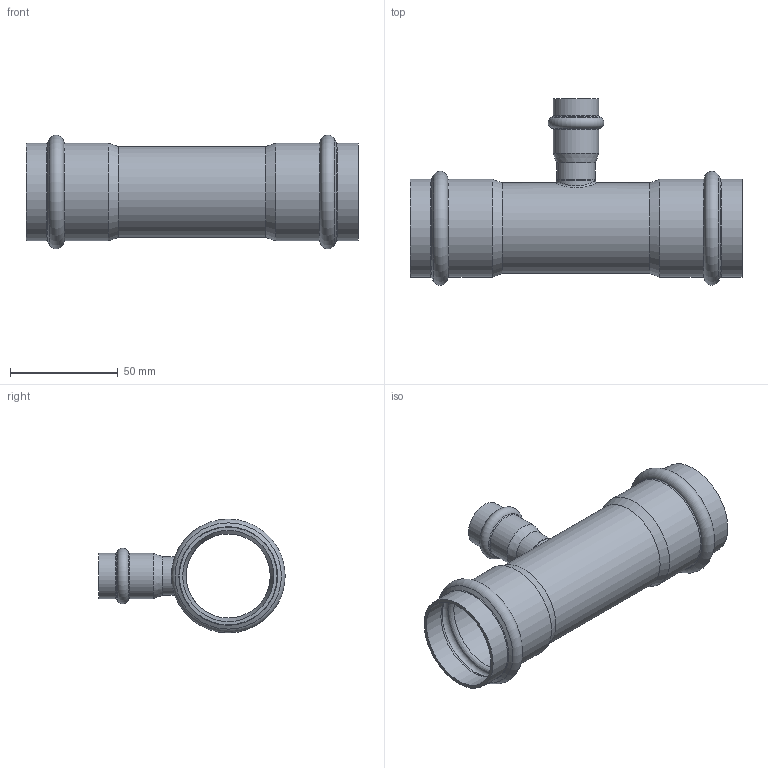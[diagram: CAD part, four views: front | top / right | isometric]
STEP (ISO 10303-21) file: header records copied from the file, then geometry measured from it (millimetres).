
FILE_DESCRIPTION((''),'2;1');
FILE_NAME('G:\Technics\CAD\Bauteile\042\69130421842(2).stp','2008-03-04T11:18:43',('herberg'),(''),'Autodesk Inventor 2008','Autodesk Inventor 2008','');
FILE_SCHEMA(('AUTOMOTIVE_DESIGN { 1 0 10303 214 1 1 1 1 }'));
Length unit declared in the file: millimetre
Products named in the file (3): 69130421842(2); LM_69130421842(2); 6924318HM(1)
Assembly tree (2 placements, depth 2):
  69130421842(2)
    LM_69130421842(2)
    6924318HM(1)
Bounding box: 154 x 86.4 x 52.8 mm (x, y, z)
Volume: 36342.3 mm3; surface area: 49109.9 mm2
Topology: 2 solids, 2 shells, 55 faces, 115 edges, 64 vertices
Faces by surface type: cylinder 18, bspline 13, cone 12, torus 7, plane 5
Full cylindrical faces by diameter (mm): 15 x2, 18 x2, 18.15 x2, 21.15 x2, 39 x1, 42 x1, 42.3 x4, 45.3 x4
Entity records: 2757 total; most frequent: CARTESIAN_POINT 1769, DIRECTION 200, ORIENTED_EDGE 116, EDGE_LOOP 110, AXIS2_PLACEMENT_3D 100, EDGE_CURVE 58, VERTEX_POINT 56, FACE_OUTER_BOUND 55
